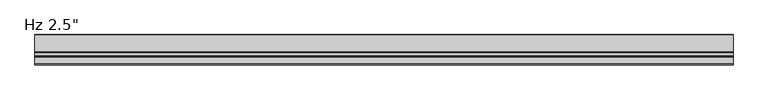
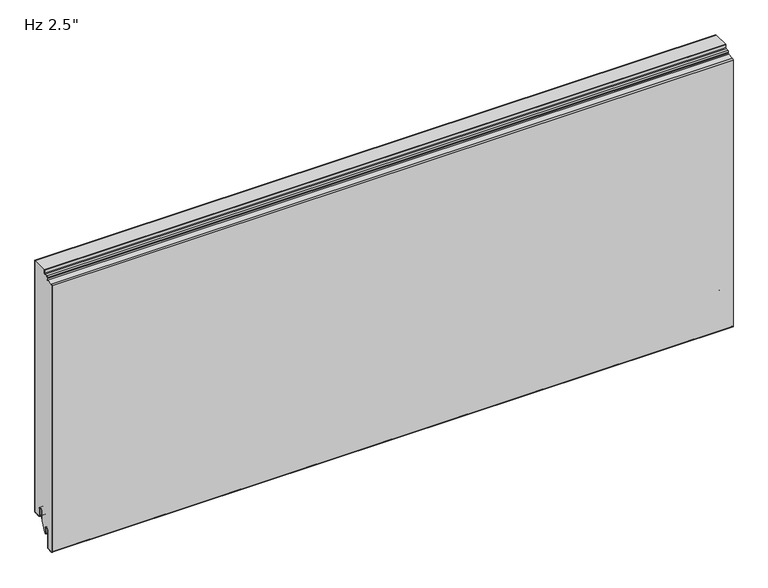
"""IFC4 building model written with IfcOpenShell, lengths in millimetres: plate geometry."""

import ifcopenshell
import ifcopenshell.guid

model = None  # the IFC model being written
_history = None  # IfcOwnerHistory: only IFC2X3 demands one
_inside = {}  # id of a spatial element -> (the spatial element, [elements in it])
_under = {}  # id of a project, library or spatial element -> (it, [spatial elements below it])
_declared = {}  # id of a project -> (the project, [libraries it declares])
_typed = {}  # id of a type object -> (the type object, [elements of that type])
_made_of = {}  # id of a material, layer set ... -> (it, [elements and type objects made of it])


def new_model(schema):
    """Start an empty IFC model of exactly this schema.

    Asked for "IFC4X3", IfcOpenShell would pick the latest addendum, in which some entities
    have other attributes; the version numbers below select the first issue.
    IFC2X3 requires an IfcOwnerHistory on every rooted entity: one is made here for all.
    """
    global model, _history
    if schema == "IFC4X3":
        model = ifcopenshell.file(schema_version=(4, 3, 0, 0))
    else:
        model = ifcopenshell.file(schema=schema)
    _inside.clear()
    _under.clear()
    _declared.clear()
    _typed.clear()
    _made_of.clear()
    _history = None
    if model.schema == "IFC2X3":
        org = make("IfcOrganization", Name="unknown")
        user = make(
            "IfcPersonAndOrganization",
            ThePerson=make("IfcPerson", FamilyName="unknown"),
            TheOrganization=org,
        )
        app = make(
            "IfcApplication",
            ApplicationDeveloper=org,
            Version="unknown",
            ApplicationFullName="unknown",
            ApplicationIdentifier="unknown",
        )
        _history = make(
            "IfcOwnerHistory",
            OwningUser=user,
            OwningApplication=app,
            ChangeAction="ADDED",
            CreationDate=0,
        )
    return model


def make(cls, **values):
    """One entity of the class cls with the attributes given. An attribute that is None is left unset."""
    return model.create_entity(
        cls, **{name: value for name, value in values.items() if value is not None}
    )


def rooted(cls, **values):
    """An entity with a GlobalId (a new one), such as an element, a storey or a relation."""
    return make(cls, GlobalId=ifcopenshell.guid.new(), OwnerHistory=_history, **values)


def si_unit(unit_type, name, prefix=None):
    """IfcSIUnit, for example si_unit("LENGTHUNIT", "METRE", prefix="MILLI")."""
    return make("IfcSIUnit", UnitType=unit_type, Prefix=prefix, Name=name)


def assignment(units):
    """IfcUnitAssignment: the units of a project."""
    return None if units is None else make("IfcUnitAssignment", Units=units)


def point(xyz):
    """IfcCartesianPoint."""
    return None if xyz is None else make("IfcCartesianPoint", Coordinates=xyz)


def direction(xyz):
    """IfcDirection."""
    return None if xyz is None else make("IfcDirection", DirectionRatios=xyz)


def frame(location, z_axis=None, x_axis=None):
    """IfcAxis2Placement3D, a coordinate frame: its origin and axes. An axis left out is left unset."""
    return make(
        "IfcAxis2Placement3D",
        Location=point(location),
        Axis=direction(z_axis),
        RefDirection=direction(x_axis),
    )


def frame_2d(location, x_axis=None):
    """IfcAxis2Placement2D, a coordinate frame in the plane: its origin and x axis."""
    return make(
        "IfcAxis2Placement2D", Location=point(location), RefDirection=direction(x_axis)
    )


def origin():
    """The frame at (0, 0, 0) with its axes left unset."""
    return frame((0.0, 0.0, 0.0))


def place(relative_to, where):
    """IfcLocalPlacement: puts the frame where relative to a parent placement (None: the world)."""
    return make(
        "IfcLocalPlacement", PlacementRelTo=relative_to, RelativePlacement=where
    )


def context(
    kind, dimensions, precision=None, world=None, true_north=None, identifier=None
):
    """IfcGeometricRepresentationContext, for example the 3D "Model" context."""
    return make(
        "IfcGeometricRepresentationContext",
        ContextIdentifier=identifier,
        ContextType=kind,
        CoordinateSpaceDimension=dimensions,
        Precision=precision,
        WorldCoordinateSystem=world,
        TrueNorth=true_north,
    )


def project(units=None, contexts=None):
    """IfcProject with its units and contexts."""
    return rooted(
        "IfcProject",
        Name="project",
        RepresentationContexts=contexts,
        UnitsInContext=assignment(units),
    )


def spatial(cls, under=None, at=None, **own):
    """A site, building, storey or space (cls), placed at a placement, below another one or the project."""
    s = rooted(cls, ObjectPlacement=at, **own)
    if under is not None:
        _under.setdefault(under.id(), (under, []))[1].append(s)
    return s


def polyline(points):
    """IfcPolyline through the points."""
    return make("IfcPolyline", Points=[point(p) for p in points])


def circle_curve(where, radius):
    """IfcCircle in the frame where."""
    return make("IfcCircle", Position=where, Radius=radius)


def trimmed(basis, trim1, trim2, sense, master):
    """IfcTrimmedCurve: the piece of a basis curve between two trims."""
    return make(
        "IfcTrimmedCurve",
        BasisCurve=basis,
        Trim1=trim1,
        Trim2=trim2,
        SenseAgreement=sense,
        MasterRepresentation=master,
    )


def segment(curve, same_sense, transition):
    """IfcCompositeCurveSegment."""
    return make(
        "IfcCompositeCurveSegment",
        Transition=transition,
        SameSense=same_sense,
        ParentCurve=curve,
    )


def composite_curve(segments, self_intersect=None):
    """IfcCompositeCurve: segments joined end to end."""
    return make("IfcCompositeCurve", Segments=segments, SelfIntersect=self_intersect)


def outline(outer, holes=None, kind="AREA"):
    """IfcArbitraryClosedProfileDef: a profile drawn as a closed curve; with holes, ...WithVoids."""
    if holes is None:
        return make("IfcArbitraryClosedProfileDef", ProfileType=kind, OuterCurve=outer)
    return make(
        "IfcArbitraryProfileDefWithVoids",
        ProfileType=kind,
        OuterCurve=outer,
        InnerCurves=holes,
    )


def extrude(swept, where, along, depth):
    """IfcExtrudedAreaSolid: the profile swept, set in the frame where, extruded along a direction by depth."""
    return make(
        "IfcExtrudedAreaSolid",
        SweptArea=swept,
        Position=where,
        ExtrudedDirection=direction(along),
        Depth=depth,
    )


def shape(context_of_items, identifier, shape_type, items):
    """IfcShapeRepresentation: the items that make up one representation, for example the "Body"."""
    return make(
        "IfcShapeRepresentation",
        ContextOfItems=context_of_items,
        RepresentationIdentifier=identifier,
        RepresentationType=shape_type,
        Items=items,
    )


def source(mapping_origin, context_of_items, identifier, shape_type, items):
    """IfcRepresentationMap: a shape defined once, which mapped items show again and again."""
    return make(
        "IfcRepresentationMap",
        MappingOrigin=mapping_origin,
        MappedRepresentation=shape(context_of_items, identifier, shape_type, items),
    )


def transform(
    local_origin,
    x_axis=None,
    y_axis=None,
    z_axis=None,
    scale=None,
    scale2=None,
    scale3=None,
    uniform=True,
):
    """IfcCartesianTransformationOperator3D, or its non-uniform kind. x_axis, y_axis, z_axis: its Axis1, 2, 3."""
    if uniform:
        return make(
            "IfcCartesianTransformationOperator3D",
            Axis1=direction(x_axis),
            Axis2=direction(y_axis),
            LocalOrigin=point(local_origin),
            Scale=scale,
            Axis3=direction(z_axis),
        )
    return make(
        "IfcCartesianTransformationOperator3DnonUniform",
        Axis1=direction(x_axis),
        Axis2=direction(y_axis),
        LocalOrigin=point(local_origin),
        Scale=scale,
        Axis3=direction(z_axis),
        Scale2=scale2,
        Scale3=scale3,
    )


def mapped(mapping_source, mapping_target):
    """IfcMappedItem: shows the shape of a source again, moved by a transform."""
    return make(
        "IfcMappedItem", MappingSource=mapping_source, MappingTarget=mapping_target
    )


def made_of(thing, what):
    """Note that an element or type object is made of a material, layer set ...; save() writes the relation."""
    if what is not None:
        _made_of.setdefault(what.id(), (what, []))[1].append(thing)
    return thing


def element(
    cls,
    number,
    at=None,
    inside=None,
    cuts=None,
    type_object=None,
    material=None,
    context=None,
    identifier="Body",
    shape_type=None,
    held_by="IfcProductDefinitionShape",
    body=None,
    shapes=None,
    **own,
):
    """One element of the class cls, such as IfcWall. Its Tag is "e" and its number.

    at: its placement. inside: the storey or other place that contains it. cuts: it is an
    opening in that element (IfcRelVoidsElement). A single representation is given by context,
    identifier, shape_type and body (its items); several are given by shapes. held_by: the class
    of the entity that holds the representations. save() writes the other relations.
    """
    e = rooted(cls, Tag="e%d" % number, ObjectPlacement=at, **own)
    if body is not None:
        shapes = [shape(context, identifier, shape_type, body)]
    if shapes is not None:
        e.Representation = make(held_by, Representations=shapes)
    if inside is not None:
        _inside.setdefault(inside.id(), (inside, []))[1].append(e)
    if cuts is not None:
        rooted(
            "IfcRelVoidsElement", RelatingBuildingElement=cuts, RelatedOpeningElement=e
        )
    if type_object is not None:
        _typed.setdefault(type_object.id(), (type_object, []))[1].append(e)
    return made_of(e, material)


def aggregate(whole, parts):
    """IfcRelAggregates: a whole, such as a stair, and the parts it consists of."""
    return rooted("IfcRelAggregates", RelatingObject=whole, RelatedObjects=parts)


def save(model, path):
    """Write the relations noted so far, then the file.

    IfcRelAggregates (storeys below a building ...), IfcRelContainedInSpatialStructure (elements
    in a storey), IfcRelDefinesByType, IfcRelAssociatesMaterial and IfcRelDeclares: one each for
    every whole, place, type object, material and project.
    """
    for whole, parts in _under.values():
        aggregate(whole, parts)
    for where, things in _inside.values():
        rooted(
            "IfcRelContainedInSpatialStructure",
            RelatedElements=things,
            RelatingStructure=where,
        )
    for kind, things in _typed.values():
        rooted("IfcRelDefinesByType", RelatedObjects=things, RelatingType=kind)
    for what, things in _made_of.values():
        rooted("IfcRelAssociatesMaterial", RelatedObjects=things, RelatingMaterial=what)
    for by, libraries in _declared.values():
        rooted("IfcRelDeclares", RelatingContext=by, RelatedDefinitions=libraries)
    model.write(path)


def plate_15d6752c(model_context):
    return source(origin(), model_context, "Body", "SweptSolid", [
        extrude(outline(composite_curve([segment(trimmed(circle_curve(frame_2d((-21.43125, 19.05)), 4.96875), [point((-16.4625, 19.05))], [point((-26.4, 19.05))], True, "CARTESIAN"), True, "CONTINUOUS"), segment(polyline([(-26.4, 19.05), (-26.4, -3.1323422), (-36.5326309, -23.01875), (-38.1, -23.01875), (-38.1, -13.5080174), (-38.89375, -13.5080174), (-38.6875, -11.9205174)]), True, "CONTINUOUS"), segment(trimmed(circle_curve(frame_2d((-43.65625, -11.9205174)), 4.96875), [point((-38.6875, -11.9205174))], [point((-48.625, -11.9205174))], True, "CARTESIAN"), True, "CONTINUOUS"), segment(polyline([(-48.625, -11.9205174), (-48.625, -50.1038221)]), True, "CONTINUOUS"), segment(trimmed(circle_curve(frame_2d((-50.00625, -50.1038221)), 1.38125), [point((-48.625, -50.1038221))], [point((-49.933961, -51.4831791))], False, "CARTESIAN"), True, "CONTINUOUS"), segment(polyline([(-49.933961, -51.4831791), (-61.046461, -52.0655606)]), True, "CONTINUOUS"), segment(trimmed(circle_curve(frame_2d((-61.11875, -50.6862035)), 1.38125), [point((-61.046461, -52.0655606))], [point((-62.5, -50.6862035))], False, "CARTESIAN"), True, "CONTINUOUS"), segment(polyline([(-62.5, -50.6862035), (-62.5, 552.5572607)]), True, "CONTINUOUS"), segment(trimmed(circle_curve(frame_2d((-61.11875, 552.5572607)), 1.38125), [point((-62.5, 552.5572607))], [point((-61.191039, 553.9366177))], False, "CARTESIAN"), True, "CONTINUOUS"), segment(polyline([(-61.191039, 553.9366177), (-47.4895807, 554.6546807)]), True, "CONTINUOUS"), segment(trimmed(circle_curve(frame_2d((-47.625, 557.2386347)), 2.5875), [point((-47.4895807, 554.6546807))], [point((-45.0375, 557.2386347))], True, "CARTESIAN"), True, "CONTINUOUS"), segment(polyline([(-45.0375, 557.2386347), (-45.0375, 560.2824411)]), True, "CONTINUOUS"), segment(trimmed(circle_curve(frame_2d((-43.65625, 560.2824411)), 1.38125), [point((-45.0375, 560.2824411))], [point((-43.728539, 561.6617981))], False, "CARTESIAN"), True, "CONTINUOUS"), segment(polyline([(-43.728539, 561.6617981), (-37.9645807, 561.9638744)]), True, "CONTINUOUS"), segment(trimmed(circle_curve(frame_2d((-38.1, 564.5478283)), 2.5875), [point((-37.9645807, 561.9638744))], [point((-35.5125, 564.5478283))], True, "CARTESIAN"), True, "CONTINUOUS"), segment(polyline([(-35.5125, 564.5478283), (-35.5125, 571.2), (-1.0, 571.2), (-1.0, 3.175)]), True, "CONTINUOUS"), segment(trimmed(circle_curve(frame_2d((-2.38125, 3.175)), 1.38125), [point((-1.0, 3.175))], [point((-2.38125, 1.79375))], False, "CARTESIAN"), True, "CONTINUOUS"), segment(polyline([(-2.38125, 1.79375), (-15.08125, 1.79375)]), True, "CONTINUOUS"), segment(trimmed(circle_curve(frame_2d((-15.08125, 3.175)), 1.38125), [point((-15.08125, 1.79375))], [point((-16.4625, 3.175))], False, "CARTESIAN"), True, "CONTINUOUS"), segment(polyline([(-16.4625, 3.175), (-16.4625, 19.05)]), True, "CONTINUOUS")], self_intersect=False)), frame((-730.0, 0.0, 0.0), z_axis=(1.0, 0.0, 0.0), x_axis=(0.0, 1.0, 0.0)), (0.0, 0.0, 1.0), 1460.0),
        extrude(outline(composite_curve([segment(polyline([(-25.4, 0.79375), (-26.4, 0.79375), (-26.4, 19.05)]), True, "CONTINUOUS"), segment(trimmed(circle_curve(frame_2d((-21.43125, 19.05)), 4.96875), [point((-26.4, 19.05))], [point((-16.4625, 19.05))], False, "CARTESIAN"), True, "CONTINUOUS"), segment(polyline([(-16.4625, 19.05), (-16.4625, 3.175)]), True, "CONTINUOUS"), segment(trimmed(circle_curve(frame_2d((-15.08125, 3.175)), 1.38125), [point((-16.4625, 3.175))], [point((-15.08125, 1.79375))], True, "CARTESIAN"), True, "CONTINUOUS"), segment(polyline([(-15.08125, 1.79375), (-2.38125, 1.79375)]), True, "CONTINUOUS"), segment(trimmed(circle_curve(frame_2d((-2.38125, 3.175)), 1.38125), [point((-2.38125, 1.79375))], [point((-1.0, 3.175))], True, "CARTESIAN"), True, "CONTINUOUS"), segment(polyline([(-1.0, 3.175), (-1.0, 571.2), (0.0, 571.2), (0.0, 3.175)]), True, "CONTINUOUS"), segment(trimmed(circle_curve(frame_2d((-2.38125, 3.175)), 2.38125), [point((0.0, 3.175))], [point((-2.38125, 0.79375))], False, "CARTESIAN"), True, "CONTINUOUS"), segment(polyline([(-2.38125, 0.79375), (-15.08125, 0.79375)]), True, "CONTINUOUS"), segment(trimmed(circle_curve(frame_2d((-15.08125, 3.175)), 2.38125), [point((-15.08125, 0.79375))], [point((-17.4625, 3.175))], False, "CARTESIAN"), True, "CONTINUOUS"), segment(polyline([(-17.4625, 3.175), (-17.4625, 19.05)]), True, "CONTINUOUS"), segment(trimmed(circle_curve(frame_2d((-21.43125, 19.05)), 3.96875), [point((-17.4625, 19.05))], [point((-25.4, 19.05))], True, "CARTESIAN"), True, "CONTINUOUS"), segment(polyline([(-25.4, 19.05), (-25.4, 0.79375)]), True, "CONTINUOUS")], self_intersect=False)), frame((-730.0, 0.0, 0.0), z_axis=(1.0, 0.0, 0.0), x_axis=(0.0, 1.0, 0.0)), (0.0, 0.0, 1.0), 1460.0),
        extrude(outline(composite_curve([segment(trimmed(circle_curve(frame_2d((-38.89375, -23.2314549)), 0.79375), [point((-38.1, -23.2314549))], [point((-39.6875, -23.2314549))], False, "CARTESIAN"), True, "CONTINUOUS"), segment(polyline([(-39.6875, -23.2314549), (-39.6875, -11.9205174)]), True, "CONTINUOUS"), segment(trimmed(circle_curve(frame_2d((-43.65625, -11.9205174)), 3.96875), [point((-39.6875, -11.9205174))], [point((-47.625, -11.9205174))], True, "CARTESIAN"), True, "CONTINUOUS"), segment(polyline([(-47.625, -11.9205174), (-47.625, -50.1038221)]), True, "CONTINUOUS"), segment(trimmed(circle_curve(frame_2d((-50.00625, -50.1038221)), 2.38125), [point((-47.625, -50.1038221))], [point((-49.881625, -52.4818086))], False, "CARTESIAN"), True, "CONTINUOUS"), segment(polyline([(-49.881625, -52.4818086), (-60.994125, -53.0641901)]), True, "CONTINUOUS"), segment(trimmed(circle_curve(frame_2d((-61.11875, -50.6862035)), 2.38125), [point((-60.994125, -53.0641901))], [point((-63.5, -50.6862035))], False, "CARTESIAN"), True, "CONTINUOUS"), segment(polyline([(-63.5, -50.6862035), (-63.5, 552.5572607)]), True, "CONTINUOUS"), segment(trimmed(circle_curve(frame_2d((-61.11875, 552.5572607)), 2.38125), [point((-63.5, 552.5572607))], [point((-61.243375, 554.9352473))], False, "CARTESIAN"), True, "CONTINUOUS"), segment(polyline([(-61.243375, 554.9352473), (-47.5419167, 555.6533103)]), True, "CONTINUOUS"), segment(trimmed(circle_curve(frame_2d((-47.625, 557.2386347)), 1.5875), [point((-47.5419167, 555.6533103))], [point((-46.0375, 557.2386347))], True, "CARTESIAN"), True, "CONTINUOUS"), segment(polyline([(-46.0375, 557.2386347), (-46.0375, 560.2824411)]), True, "CONTINUOUS"), segment(trimmed(circle_curve(frame_2d((-43.65625, 560.2824411)), 2.38125), [point((-46.0375, 560.2824411))], [point((-43.780875, 562.6604276))], False, "CARTESIAN"), True, "CONTINUOUS"), segment(polyline([(-43.780875, 562.6604276), (-38.0169167, 562.9625039)]), True, "CONTINUOUS"), segment(trimmed(circle_curve(frame_2d((-38.1, 564.5478283)), 1.5875), [point((-38.0169167, 562.9625039))], [point((-36.5125, 564.5478283))], True, "CARTESIAN"), True, "CONTINUOUS"), segment(polyline([(-36.5125, 564.5478283), (-36.5125, 571.2), (-35.5125, 571.2), (-35.5125, 564.5478283)]), True, "CONTINUOUS"), segment(trimmed(circle_curve(frame_2d((-38.1, 564.5478283)), 2.5875), [point((-35.5125, 564.5478283))], [point((-37.9645807, 561.9638744))], False, "CARTESIAN"), True, "CONTINUOUS"), segment(polyline([(-37.9645807, 561.9638744), (-43.728539, 561.6617981)]), True, "CONTINUOUS"), segment(trimmed(circle_curve(frame_2d((-43.65625, 560.2824411)), 1.38125), [point((-43.728539, 561.6617981))], [point((-45.0375, 560.2824411))], True, "CARTESIAN"), True, "CONTINUOUS"), segment(polyline([(-45.0375, 560.2824411), (-45.0375, 557.2386347)]), True, "CONTINUOUS"), segment(trimmed(circle_curve(frame_2d((-47.625, 557.2386347)), 2.5875), [point((-45.0375, 557.2386347))], [point((-47.4895807, 554.6546807))], False, "CARTESIAN"), True, "CONTINUOUS"), segment(polyline([(-47.4895807, 554.6546807), (-61.191039, 553.9366177)]), True, "CONTINUOUS"), segment(trimmed(circle_curve(frame_2d((-61.11875, 552.5572607)), 1.38125), [point((-61.191039, 553.9366177))], [point((-62.5, 552.5572607))], True, "CARTESIAN"), True, "CONTINUOUS"), segment(polyline([(-62.5, 552.5572607), (-62.5, -50.6862035)]), True, "CONTINUOUS"), segment(trimmed(circle_curve(frame_2d((-61.11875, -50.6862035)), 1.38125), [point((-62.5, -50.6862035))], [point((-61.046461, -52.0655606))], True, "CARTESIAN"), True, "CONTINUOUS"), segment(polyline([(-61.046461, -52.0655606), (-49.933961, -51.4831791)]), True, "CONTINUOUS"), segment(trimmed(circle_curve(frame_2d((-50.00625, -50.1038221)), 1.38125), [point((-49.933961, -51.4831791))], [point((-48.625, -50.1038221))], True, "CARTESIAN"), True, "CONTINUOUS"), segment(polyline([(-48.625, -50.1038221), (-48.625, -11.9205174)]), True, "CONTINUOUS"), segment(trimmed(circle_curve(frame_2d((-43.65625, -11.9205174)), 4.96875), [point((-48.625, -11.9205174))], [point((-38.6875, -11.9205174))], False, "CARTESIAN"), True, "CONTINUOUS"), segment(polyline([(-38.6875, -11.9205174), (-38.89375, -13.5080174), (-38.1, -13.5080174), (-38.1, -23.2314549)]), True, "CONTINUOUS")], self_intersect=False)), frame((-730.0, 0.0, 0.0), z_axis=(1.0, 0.0, 0.0), x_axis=(0.0, 1.0, 0.0)), (0.0, 0.0, 1.0), 1460.0),
    ])


if __name__ == "__main__":
    model = new_model("IFC4")
    model_context = context("Model", 3, world=origin())
    ifc_project = project(units=[si_unit("LENGTHUNIT", "METRE", prefix="MILLI")], contexts=[model_context])
    site = spatial("IfcSite", under=ifc_project)
    building = spatial("IfcBuilding", under=site)
    placement = place(None, origin())
    plate_shape = plate_15d6752c(model_context)
    element("IfcPlate", 1, ObjectType="KIP-24-DWTR-R19-CP-Hz-F : Hz 2.5\"", at=placement, inside=building, context=model_context, shape_type="MappedRepresentation", body=[
        mapped(plate_shape, transform((0.0, 0.0, 0.0), x_axis=(1.0, 0.0, 0.0), y_axis=(0.0, 1.0, 0.0), z_axis=(0.0, 0.0, 1.0))),
    ])
    save(model, "model.ifc")
